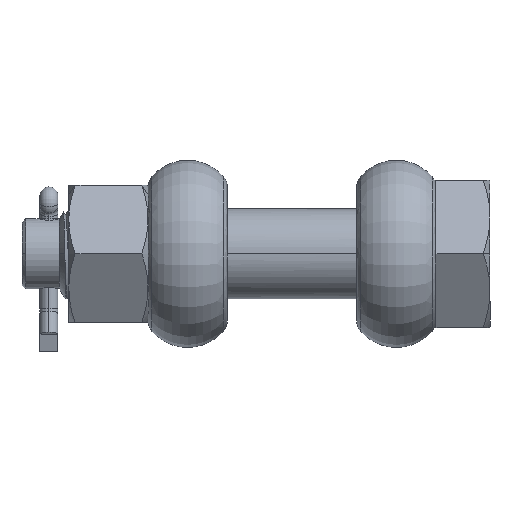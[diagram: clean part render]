
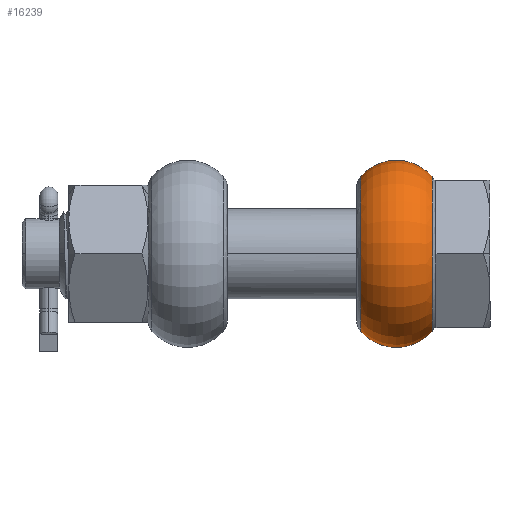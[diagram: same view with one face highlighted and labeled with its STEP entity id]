
A CAD part, front view. The second image highlights one B-rep face of the part: STEP entity #16239.
In plain terms, the highlighted toroidal (fillet/blend) face has major radius 12.8 mm and minor radius 13.2 mm.
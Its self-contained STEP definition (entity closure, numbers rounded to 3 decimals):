
#16199 = VERTEX_POINT ( 'NONE', #29120 ) ;
#16204 = EDGE_CURVE ( 'NONE', #16199, #16208, #29119, .T. ) ;
#16208 = VERTEX_POINT ( 'NONE', #29114 ) ;
#16239 = ADVANCED_FACE ( 'NONE', ( #29162 ), #29160, .T. ) ;
#16240 = EDGE_LOOP ( 'NONE', ( #16244, #16247, #16259, #16269 ) ) ;
#16244 = ORIENTED_EDGE ( 'NONE', *, *, #16204, .F. ) ;
#16247 = ORIENTED_EDGE ( 'NONE', *, *, #16254, .F. ) ;
#16252 = VERTEX_POINT ( 'NONE', #29240 ) ;
#16254 = EDGE_CURVE ( 'NONE', #16252, #16199, #29238, .T. ) ;
#16259 = ORIENTED_EDGE ( 'NONE', *, *, #16263, .T. ) ;
#16263 = EDGE_CURVE ( 'NONE', #16252, #16265, #29271, .T. ) ;
#16265 = VERTEX_POINT ( 'NONE', #29266 ) ;
#16269 = ORIENTED_EDGE ( 'NONE', *, *, #16272, .F. ) ;
#16272 = EDGE_CURVE ( 'NONE', #16208, #16265, #29260, .T. ) ;
#29114 = CARTESIAN_POINT ( 'NONE',  ( 38.9, 0., 21.531 ) ) ;
#29115 = DIRECTION ( 'NONE',  ( 0., 0., 1. ) ) ;
#29116 = DIRECTION ( 'NONE',  ( 0., 1., 0. ) ) ;
#29117 = CARTESIAN_POINT ( 'NONE',  ( 29., 0., 12.8 ) ) ;
#29118 = AXIS2_PLACEMENT_3D ( 'NONE', #29117, #29116, #29115 ) ;
#29119 = CIRCLE ( 'NONE', #29118, 13.2 ) ;
#29120 = CARTESIAN_POINT ( 'NONE',  ( 19.1, 0., 21.531 ) ) ;
#29159 = AXIS2_PLACEMENT_3D ( 'NONE', #29187, #29186, #29185 ) ;
#29160 = TOROIDAL_SURFACE ( 'NONE', #29159, 12.8, 13.2 ) ;
#29162 = FACE_OUTER_BOUND ( 'NONE', #16240, .T. ) ;
#29185 = DIRECTION ( 'NONE',  ( 0., 0., -1. ) ) ;
#29186 = DIRECTION ( 'NONE',  ( 1., 0., 0. ) ) ;
#29187 = CARTESIAN_POINT ( 'NONE',  ( 29., 0., 0. ) ) ;
#29227 = DIRECTION ( 'NONE',  ( 0., 1., 0. ) ) ;
#29235 = DIRECTION ( 'NONE',  ( -1., 0., 0. ) ) ;
#29236 = CARTESIAN_POINT ( 'NONE',  ( 19.1, 0., 0. ) ) ;
#29237 = AXIS2_PLACEMENT_3D ( 'NONE', #29236, #29235, #29227 ) ;
#29238 = CIRCLE ( 'NONE', #29237, 21.531 ) ;
#29240 = CARTESIAN_POINT ( 'NONE',  ( 19.1, 0., -21.531 ) ) ;
#29257 = DIRECTION ( 'NONE',  ( 0., -1., 0. ) ) ;
#29258 = DIRECTION ( 'NONE',  ( 1., 0., 0. ) ) ;
#29259 = AXIS2_PLACEMENT_3D ( 'NONE', #29265, #29258, #29257 ) ;
#29260 = CIRCLE ( 'NONE', #29259, 21.531 ) ;
#29265 = CARTESIAN_POINT ( 'NONE',  ( 38.9, 0., 0. ) ) ;
#29266 = CARTESIAN_POINT ( 'NONE',  ( 38.9, 0., -21.531 ) ) ;
#29267 = DIRECTION ( 'NONE',  ( 0., 0., -1. ) ) ;
#29268 = DIRECTION ( 'NONE',  ( 0., -1., 0. ) ) ;
#29269 = CARTESIAN_POINT ( 'NONE',  ( 29., 0., -12.8 ) ) ;
#29270 = AXIS2_PLACEMENT_3D ( 'NONE', #29269, #29268, #29267 ) ;
#29271 = CIRCLE ( 'NONE', #29270, 13.2 ) ;
